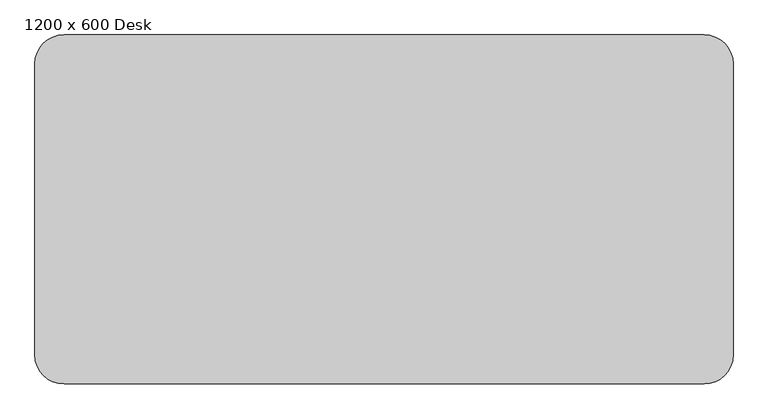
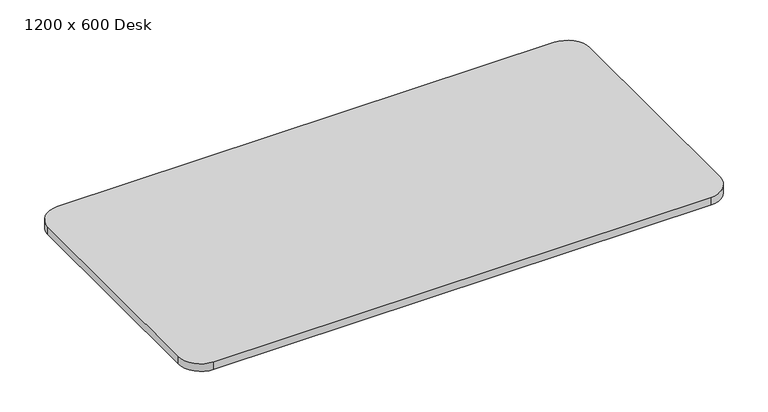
"""IFC4 building model written with IfcOpenShell, lengths in millimetres: furniture geometry, DBLTD_Sixteen3_PrivacyScreens_Artus_Desk : 1200 x 600 Desk."""

from ifc_helpers import new_model, si_unit, point, frame, frame_2d, origin, place, context, project, spatial, polyline, circle_curve, trimmed, segment, composite_curve, outline, extrude, source, transform, mapped, element, save


def furniture_1200_x_600_desk_c705bebf(model_context):
    return source(origin(), model_context, "Body", "SweptSolid", [
        extrude(outline(composite_curve([segment(polyline([(550.0, -1120.0), (-550.0, -1120.0)]), True, "CONTINUOUS"), segment(trimmed(circle_curve(frame_2d((-550.0, -1070.0)), 50.0), [point((-550.0, -1120.0))], [point((-600.0, -1070.0))], False, "CARTESIAN"), True, "CONTINUOUS"), segment(polyline([(-600.0, -1070.0), (-600.0, -570.0)]), True, "CONTINUOUS"), segment(trimmed(circle_curve(frame_2d((-550.0, -570.0)), 50.0), [point((-600.0, -570.0))], [point((-550.0, -520.0))], False, "CARTESIAN"), True, "CONTINUOUS"), segment(polyline([(-550.0, -520.0), (550.0, -520.0)]), True, "CONTINUOUS"), segment(trimmed(circle_curve(frame_2d((550.0, -570.0)), 50.0), [point((550.0, -520.0))], [point((600.0, -570.0))], False, "CARTESIAN"), True, "CONTINUOUS"), segment(polyline([(600.0, -570.0), (600.0, -1070.0)]), True, "CONTINUOUS"), segment(trimmed(circle_curve(frame_2d((550.0, -1070.0)), 50.0), [point((600.0, -1070.0))], [point((550.0, -1120.0))], False, "CARTESIAN"), True, "CONTINUOUS")], self_intersect=False)), frame((0.0, 0.0, 732.0), z_axis=(0.0, 0.0, 1.0), x_axis=(1.0, 0.0, 0.0)), (0.0, 0.0, 1.0), 18.0),
    ])


if __name__ == "__main__":
    model = new_model("IFC4")
    model_context = context("Model", 3, world=origin())
    ifc_project = project(units=[si_unit("LENGTHUNIT", "METRE", prefix="MILLI")], contexts=[model_context])
    site = spatial("IfcSite", under=ifc_project)
    building = spatial("IfcBuilding", under=site)
    placement = place(None, origin())
    furniture_1200_x_600_desk_shape = furniture_1200_x_600_desk_c705bebf(model_context)
    element("IfcFurniture", 1, ObjectType="DBLTD_Sixteen3_PrivacyScreens_Artus_Desk : 1200 x 600 Desk", at=placement, inside=building, context=model_context, shape_type="MappedRepresentation", body=[
        mapped(furniture_1200_x_600_desk_shape, transform((0.0, 0.0, 0.0), x_axis=(1.0, 0.0, 0.0), y_axis=(0.0, 1.0, 0.0), z_axis=(0.0, 0.0, 1.0))),
    ])
    save(model, "model.ifc")
